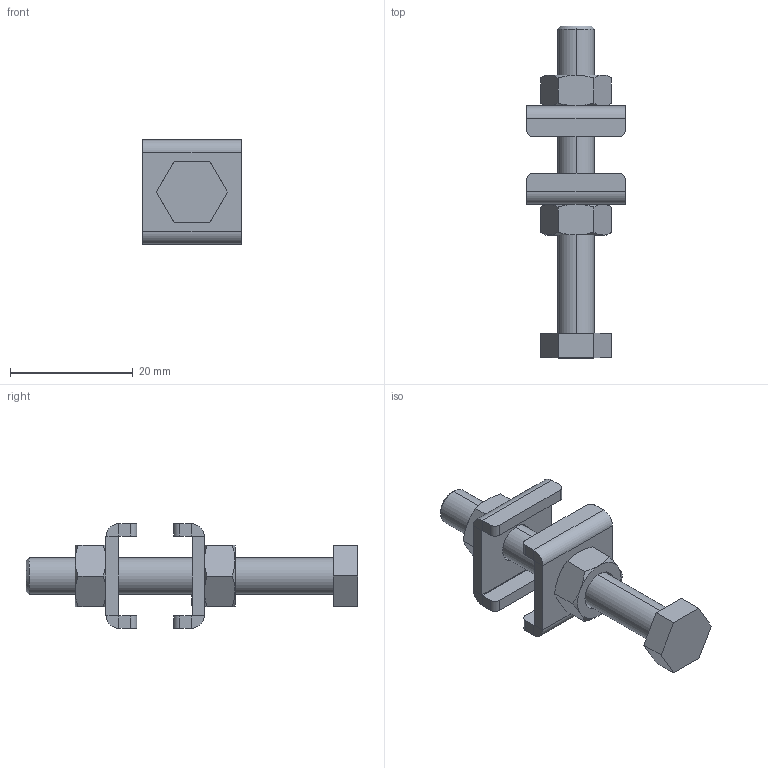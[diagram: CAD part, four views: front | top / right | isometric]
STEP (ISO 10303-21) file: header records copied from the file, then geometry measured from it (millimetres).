
FILE_DESCRIPTION (( 'STEP AP203' ), '1' );
FILE_NAME ('PS-M6.STEP', '2011-05-20T19:58:48', ( 'Usuario' ), ( '' ), 'SwSTEP 2.0', 'SolidWorks 2011', '' );
FILE_SCHEMA (( 'CONFIG_CONTROL_DESIGN' ));
Length unit declared in the file: millimetre
Products named in the file (4): PS-M6; 14.10004; 11.50001; 12.50024
Assembly tree (5 placements, depth 2):
  PS-M6
    14.10004  x2
    11.50001  x2
    12.50024
Bounding box: 16 x 54 x 17 mm (x, y, z)
Volume: 3683.2 mm3; surface area: 3636 mm2
Topology: 5 solids, 5 shells, 121 faces, 264 edges, 154 vertices
Faces by surface type: plane 61, cone 34, cylinder 26
Entity records: 2352 total; most frequent: CARTESIAN_POINT 427, DIRECTION 318, ORIENTED_EDGE 292, EDGE_CURVE 146, AXIS2_PLACEMENT_3D 121, VERTEX_POINT 86, VECTOR 76, LINE 76
